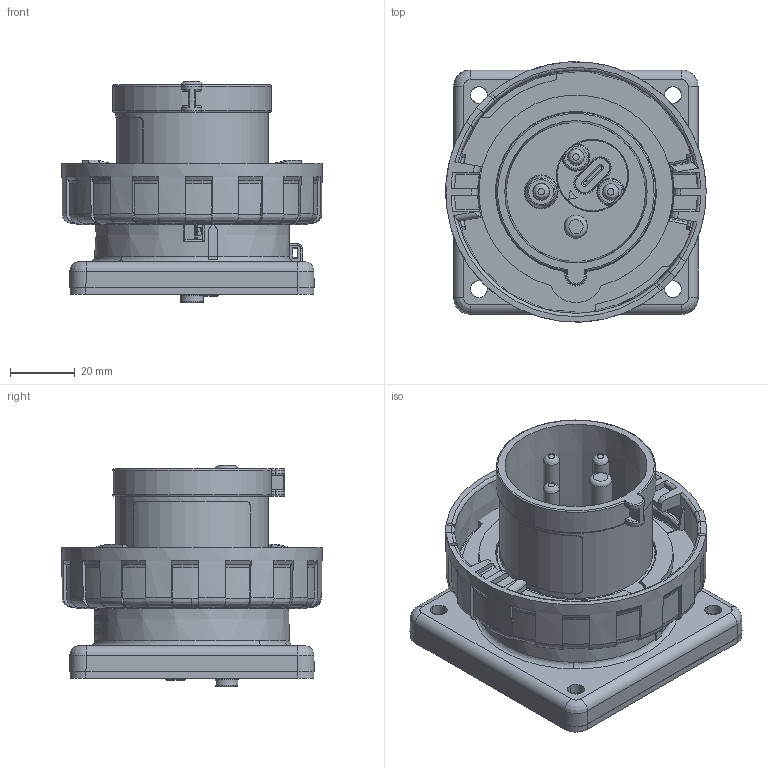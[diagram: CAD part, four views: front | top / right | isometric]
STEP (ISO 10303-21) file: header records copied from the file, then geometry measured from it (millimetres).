
FILE_DESCRIPTION(/* description */ (''),/* implementation_level */ '2;1');
FILE_NAME(/* name */ '4000507.stp',/* time_stamp */ '2019-10-16T08:03:48+02:00',/* author */ (''),/* organization */ (''),/* preprocessor_version */ 'ST-DEVELOPER v16.7',/* originating_system */ 'SIEMENS PLM Software NX 1884',/* authorisation */ '');
FILE_SCHEMA (('AUTOMOTIVE_DESIGN { 1 0 10303 214 3 1 1 1 }'));
Products named in the file (1): BSOM281C0A08geg4
Bounding box: 80.46 x 80.4 x 68.3 mm (x, y, z)
Volume: 92844 mm3; surface area: 95175 mm2
Topology: 23 solids, 23 shells, 3709 faces, 9617 edges, 5938 vertices
Faces by surface type: plane 1223, cylinder 830, bspline 762, extrusion 353, cone 314, torus 164, sphere 62, revolution 1
Full cylindrical faces by diameter (mm): 1 x2, 2.25 x2, 3 x6, 3.5 x4, 3.6 x4, 5 x3, 5.4 x4, 5.7 x2, 5.8 x4, 6.4 x3, 7 x2, 8 x1, 23.8 x1, 41.2 x1, 47.2 x1, 60 x1, 68.7 x1
Entity records: 178965 total; most frequent: CARTESIAN_POINT 96953, ORIENTED_EDGE 18478, DIRECTION 14018, EDGE_CURVE 9239, VERTEX_POINT 5858, AXIS2_PLACEMENT_3D 5224, EDGE_LOOP 4061, B_SPLINE_CURVE_WITH_KNOTS 3742
